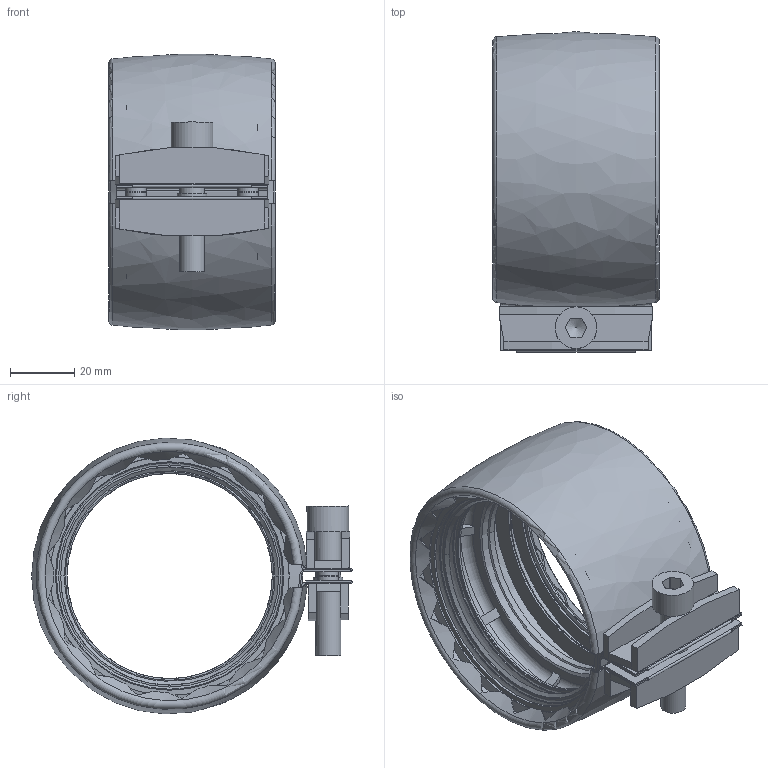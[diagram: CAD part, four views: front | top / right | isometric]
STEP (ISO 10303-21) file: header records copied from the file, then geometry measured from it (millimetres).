
FILE_DESCRIPTION(/* description */ (''),/* implementation_level */ '2;1');
FILE_NAME(/* name */ 'H:\Geberit-Teile\Export\Spannverbinder_neu\stp\307003.stp',/* time_stamp */ '2017-09-20T09:28:04+02:00',/* author */ ('seihe2'),/* organization */ (''),/* preprocessor_version */ 'ST-DEVELOPER v15.2',/* originating_system */ 'Autodesk Inventor 2014',/* authorisation */ '');
FILE_SCHEMA (('AUTOMOTIVE_DESIGN { 1 0 10303 214 3 1 1 }'));
Length unit declared in the file: millimetre
Products named in the file (1): 307003
Bounding box: 52 x 100.05 x 86.04 mm (x, y, z)
Volume: 59290.6 mm3; surface area: 83366.1 mm2
Topology: 5 solids, 5 shells, 371 faces, 1000 edges, 658 vertices
Faces by surface type: plane 203, cylinder 67, cone 41, bspline 38, torus 22
Full cylindrical faces by diameter (mm): 6.5 x4, 7.805 x1, 8 x1, 9.3 x1, 10.5 x4, 13 x1, 65.171 x1, 68.098 x4, 70.689 x4, 77.636 x2, 79.647 x2, 83 x1
Entity records: 13981 total; most frequent: CARTESIAN_POINT 4812, ORIENTED_EDGE 1888, DIRECTION 1752, EDGE_CURVE 944, AXIS2_PLACEMENT_3D 701, VERTEX_POINT 645, EDGE_LOOP 445, STYLED_ITEM 376
